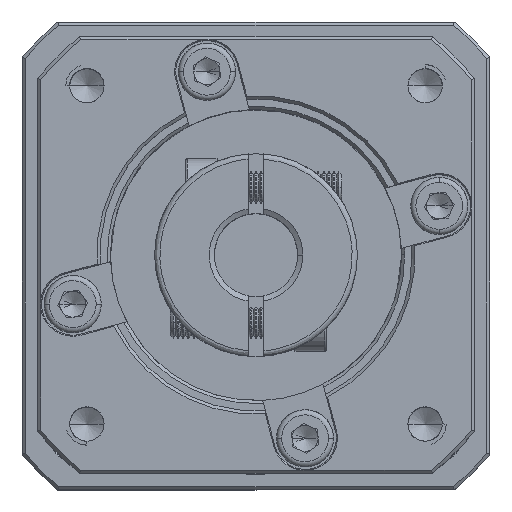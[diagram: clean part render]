
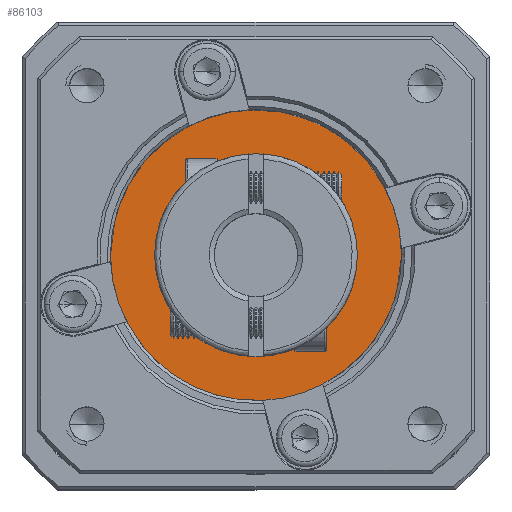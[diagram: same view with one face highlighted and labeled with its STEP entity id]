
A CAD part, top view. The second image highlights one B-rep face of the part: STEP entity #86103.
In plain terms, the highlighted planar face has unit normal (0, 0, 1).
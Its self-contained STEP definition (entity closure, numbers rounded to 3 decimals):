
#2417 = DIRECTION ( 'NONE',  ( 1., 0., 0. ) ) ;
#2916 = DIRECTION ( 'NONE',  ( -1., 0., 0. ) ) ;
#10145 = AXIS2_PLACEMENT_3D ( 'NONE', #70420, #71141, #2916 ) ;
#28524 = EDGE_CURVE ( 'NONE', #110441, #49638, #58734, .T. ) ;
#30921 = CARTESIAN_POINT ( 'NONE',  ( -13.054, 24.866, -27.356 ) ) ;
#33353 = ORIENTED_EDGE ( 'NONE', *, *, #91227, .F. ) ;
#36780 = FACE_OUTER_BOUND ( 'NONE', #86272, .T. ) ;
#49638 = VERTEX_POINT ( 'NONE', #49990 ) ;
#49990 = CARTESIAN_POINT ( 'NONE',  ( -54.654, 24.866, -27.356 ) ) ;
#53794 = DIRECTION ( 'NONE',  ( 0., 0., 1. ) ) ;
#58734 = CIRCLE ( 'NONE', #99613, 20.8 ) ;
#70420 = CARTESIAN_POINT ( 'NONE',  ( -33.854, 24.866, -27.356 ) ) ;
#71141 = DIRECTION ( 'NONE',  ( 0., 0., -1. ) ) ;
#73543 = CARTESIAN_POINT ( 'NONE',  ( -33.854, 24.866, -27.356 ) ) ;
#74994 = AXIS2_PLACEMENT_3D ( 'NONE', #96104, #53794, #2417 ) ;
#86103 = ADVANCED_FACE ( 'NONE', ( #36780 ), #87502, .T. ) ;
#86272 = EDGE_LOOP ( 'NONE', ( #33353, #99081 ) ) ;
#87502 = PLANE ( 'NONE',  #74994 ) ;
#91227 = EDGE_CURVE ( 'NONE', #49638, #110441, #109414, .T. ) ;
#96104 = CARTESIAN_POINT ( 'NONE',  ( -33.854, 24.866, -27.356 ) ) ;
#99081 = ORIENTED_EDGE ( 'NONE', *, *, #28524, .F. ) ;
#99613 = AXIS2_PLACEMENT_3D ( 'NONE', #73543, #100149, #107658 ) ;
#100149 = DIRECTION ( 'NONE',  ( 0., 0., -1. ) ) ;
#107658 = DIRECTION ( 'NONE',  ( -1., 0., 0. ) ) ;
#109414 = CIRCLE ( 'NONE', #10145, 20.8 ) ;
#110441 = VERTEX_POINT ( 'NONE', #30921 ) ;
